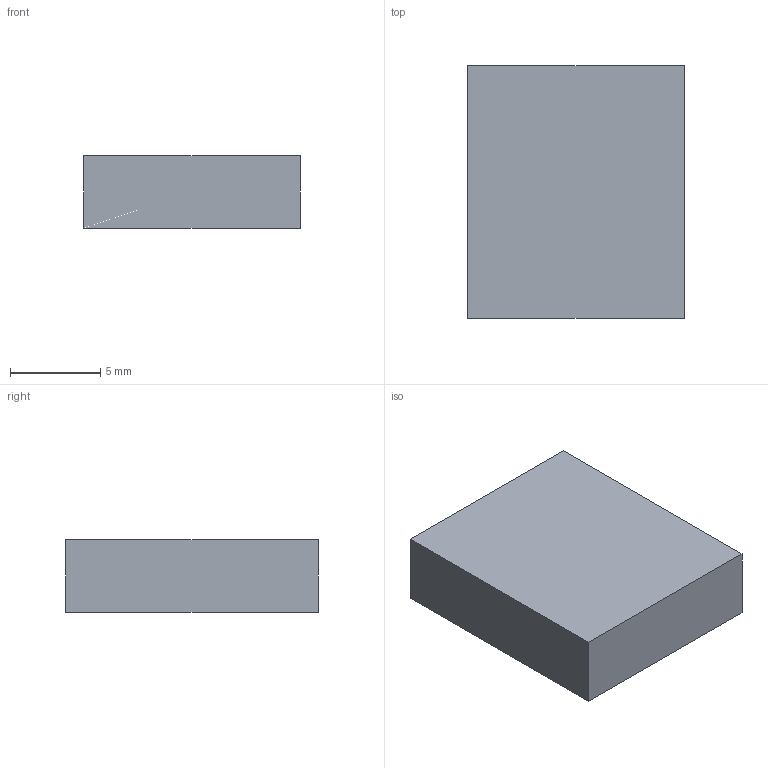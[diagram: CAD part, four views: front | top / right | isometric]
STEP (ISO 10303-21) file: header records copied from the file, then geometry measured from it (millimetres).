
FILE_DESCRIPTION(('Open CASCADE Model'),'2;1');
FILE_NAME('Open CASCADE Shape Model','2026-10-17T17:22:13',('Author'),( 'Open CASCADE'),'Open CASCADE STEP processor 7.9','Open CASCADE 7.9' ,'Unknown');
FILE_SCHEMA(('AUTOMOTIVE_DESIGN { 1 0 10303 214 1 1 1 1 }'));
Length unit declared in the file: millimetre
Products named in the file (1): Open CASCADE STEP translator 7.9 8
Bounding box: 12 x 14 x 4 mm (x, y, z)
Volume: 672 mm3; surface area: 544 mm2
Topology: 1 solids, 1 shells, 6 faces, 12 edges, 8 vertices
Faces by surface type: plane 6
Entity records: 322 total; most frequent: CARTESIAN_POINT 51, DIRECTION 50, LINE 36, VECTOR 36, ORIENTED_EDGE 24, PCURVE 24, DEFINITIONAL_REPRESENTATION 24, EDGE_CURVE 12
